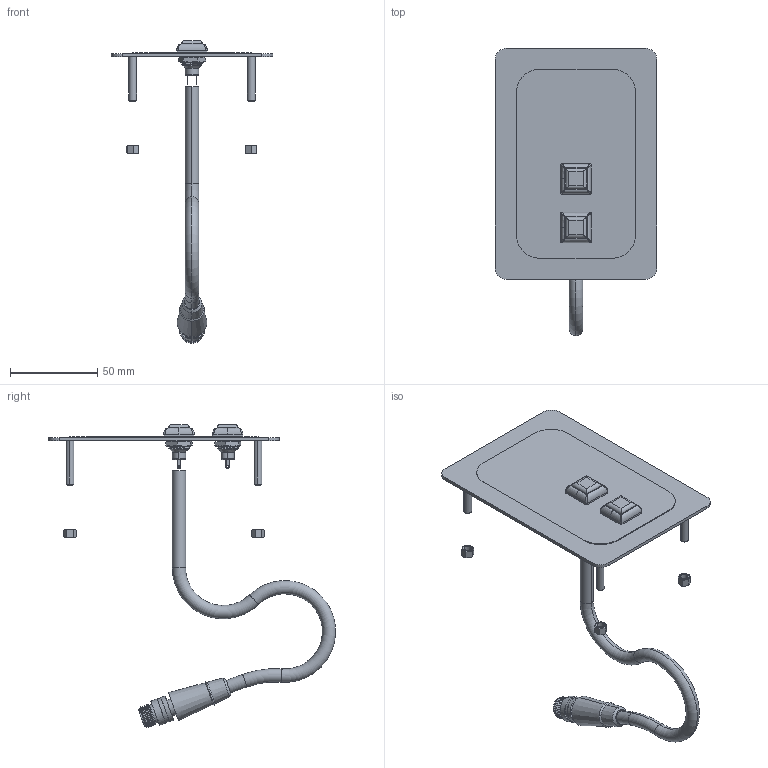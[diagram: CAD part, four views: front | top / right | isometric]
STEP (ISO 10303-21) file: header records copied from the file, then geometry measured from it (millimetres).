
FILE_DESCRIPTION (( 'STEP AP203' ), '1' );
FILE_NAME ('XGA-RP.step', '2014-05-13T19:54:30', ( 'user' ), ( '' ), 'SwSTEP 2.0', 'SolidWorks 2012', '' );
FILE_SCHEMA (( 'CONFIG_CONTROL_DESIGN' ));
Length unit declared in the file: inch
Products named in the file (1): XGA-RP
Bounding box: 92.71 x 164.8 x 173.94 mm (x, y, z)
Surface area: 46053.9 mm2 (no closed solid volume)
Topology: 0 solids, 13 shells, 353 faces, 913 edges, 578 vertices
Faces by surface type: cylinder 126, plane 110, cone 68, bspline 24, torus 23, sphere 2
Entity records: 13957 total; most frequent: CARTESIAN_POINT 5646, DIRECTION 1718, ORIENTED_EDGE 1634, EDGE_CURVE 902, AXIS2_PLACEMENT_3D 662, VERTEX_POINT 576, EDGE_LOOP 397, LINE 394
